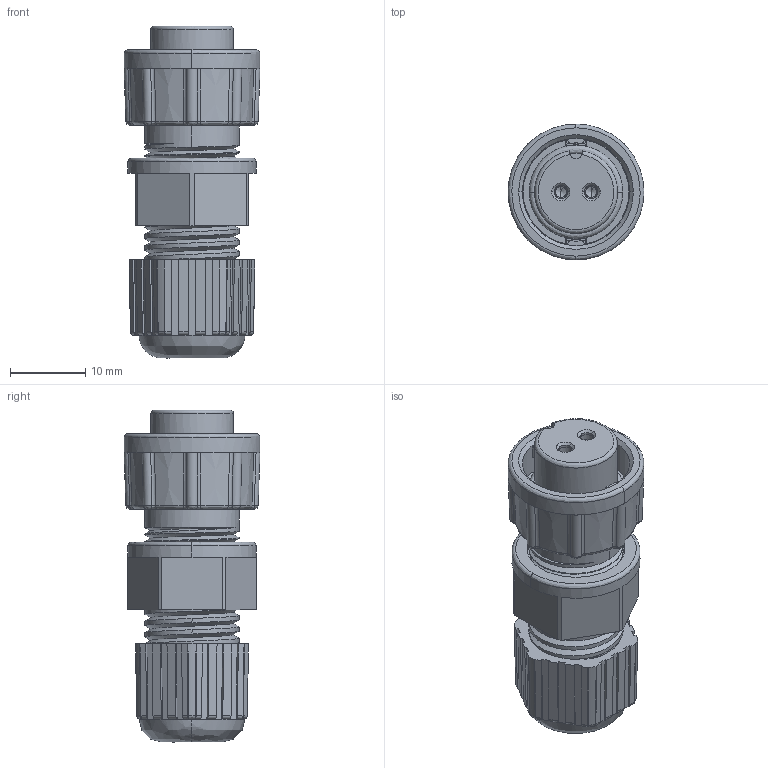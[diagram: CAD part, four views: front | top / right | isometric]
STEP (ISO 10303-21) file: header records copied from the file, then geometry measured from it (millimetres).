
FILE_DESCRIPTION (( 'STEP AP203' ), '1' );
FILE_NAME ('868-02A-203KIT.STEP', '2024-06-13T19:57:04', ( '' ), ( '' ), 'SwSTEP 2.0', 'SolidWorks 2020', '' );
FILE_SCHEMA (( 'CONFIG_CONTROL_DESIGN' ));
Products named in the file (1): 868-02A-203KIT
Bounding box: 18 x 18 x 44 mm (x, y, z)
Volume: 5781 mm3; surface area: 6528.9 mm2
Topology: 1 solids, 1 shells, 496 faces, 1342 edges, 855 vertices
Faces by surface type: plane 193, cylinder 156, bspline 93, cone 54
Entity records: 34057 total; most frequent: CARTESIAN_POINT 22886, ORIENTED_EDGE 2668, DIRECTION 1848, EDGE_CURVE 1334, VERTEX_POINT 855, AXIS2_PLACEMENT_3D 708, B_SPLINE_CURVE_WITH_KNOTS 540, EDGE_LOOP 517
